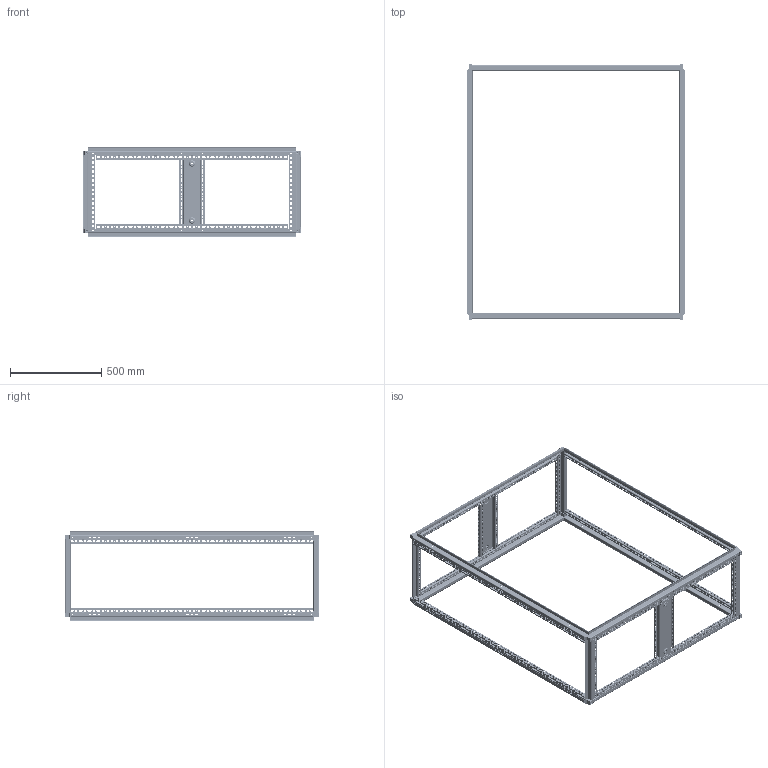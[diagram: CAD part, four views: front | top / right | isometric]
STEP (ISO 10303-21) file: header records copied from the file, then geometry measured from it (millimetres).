
FILE_DESCRIPTION (( 'STEP AP203' ), '1' );
FILE_NAME ('p2f14125.STEP', '2016-07-15T19:45:23', ( '' ), ( '' ), 'SwSTEP 2.0', 'SolidWorks 2014', '' );
FILE_SCHEMA (( 'CONFIG_CONTROL_DESIGN' ));
Length unit declared in the file: millimetre
Products named in the file (13): 89128008; 89128049; 89128086_87938316; 53412000_53412000; 60127013; 89128069_30127929; 89128035; 89128309; 30127083; 89129950_BBD; 89127979; p2f14125; 89127992
Assembly tree (39 placements, depth 5):
  p2f14125
    89129950_BBD
      89128309
        60127013  x8
        89128035  x4
        30127083  x4
        89127979  x4
        89127992  x4
        89128008  x4
        89128049  x4
        89128069_30127929  x2
          89128086_87938316
          53412000_53412000
Bounding box: 1198.8 x 1399.2 x 494.1 mm (x, y, z)
Volume: 4318617 mm3; surface area: 3765272 mm2
Topology: 38 solids, 38 shells, 10824 faces, 31896 edges, 21132 vertices
Faces by surface type: plane 7364, cylinder 3336, cone 80, torus 44
Entity records: 102218 total; most frequent: CARTESIAN_POINT 17563, ORIENTED_EDGE 17142, DIRECTION 16291, EDGE_CURVE 8571, LINE 6659, VECTOR 6659, VERTEX_POINT 5684, AXIS2_PLACEMENT_3D 4816
